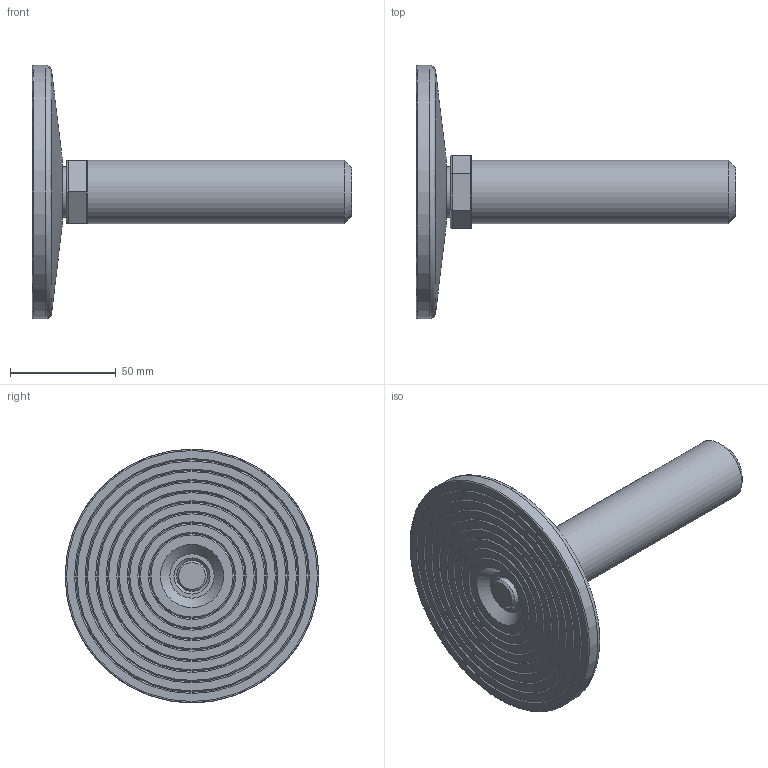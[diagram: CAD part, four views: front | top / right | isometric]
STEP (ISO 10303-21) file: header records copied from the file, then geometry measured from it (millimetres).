
FILE_DESCRIPTION(('STEP AP203'),'2;1');
FILE_NAME('15443.stp','2015-09-03T17:02:23',(''),(''),'2008.1.107','THINKDESIGN','');
FILE_SCHEMA(('CONFIG_CONTROL_DESIGN'));
Length unit declared in the file: millimetre
Bounding box: 151 x 120 x 120 mm (x, y, z)
Volume: 218910.2 mm3; surface area: 44151.2 mm2
Topology: 5 solids, 5 shells, 66 faces, 157 edges, 110 vertices
Faces by surface type: plane 25, bspline 24, cylinder 17
Full cylindrical faces by diameter (mm): 14.7 x2, 24 x1, 30 x1, 120 x1
Entity records: 2686 total; most frequent: CARTESIAN_POINT 1070, DIRECTION 318, ORIENTED_EDGE 314, EDGE_CURVE 157, AXIS2_PLACEMENT_3D 131, VERTEX_POINT 110, CIRCLE 89, EDGE_LOOP 77
